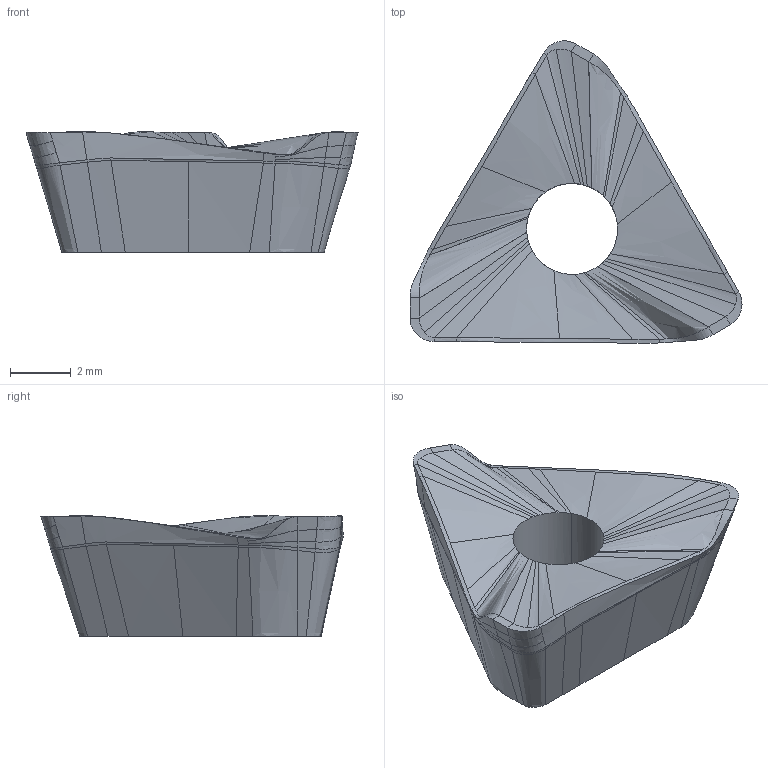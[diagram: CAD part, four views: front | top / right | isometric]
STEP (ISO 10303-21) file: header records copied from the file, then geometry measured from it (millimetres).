
FILE_DESCRIPTION(('CATIA V5 STEP'),'2;1');
FILE_NAME('I:\isr\design\admin8\users\yousef_k\5607512-D.stp','2014-03-31T03:04:42+00:00',('none'),('none'),'CATIA Version 5 Release 21 SP 3 (IN-10)','CATIA V5 STEP AP214','none');
FILE_SCHEMA(('AUTOMOTIVE_DESIGN { 1 0 10303 214 1 1 1 1 }'));
Length unit declared in the file: millimetre
Products named in the file (1): 61060307_0  HM390 TPKT 1003PDR
Bounding box: 10.94 x 9.96 x 3.96 mm (x, y, z)
Volume: 176.9 mm3; surface area: 246.2 mm2
Topology: 1 solids, 1 shells, 136 faces, 382 edges, 248 vertices
Faces by surface type: bspline 127, plane 7, cylinder 2
Entity records: 12488 total; most frequent: CARTESIAN_POINT 10141, ORIENTED_EDGE 698, B_SPLINE_CURVE_WITH_KNOTS 371, EDGE_CURVE 349, VERTEX_POINT 214, EDGE_LOOP 137, ADVANCED_FACE 136, FACE_OUTER_BOUND 136
